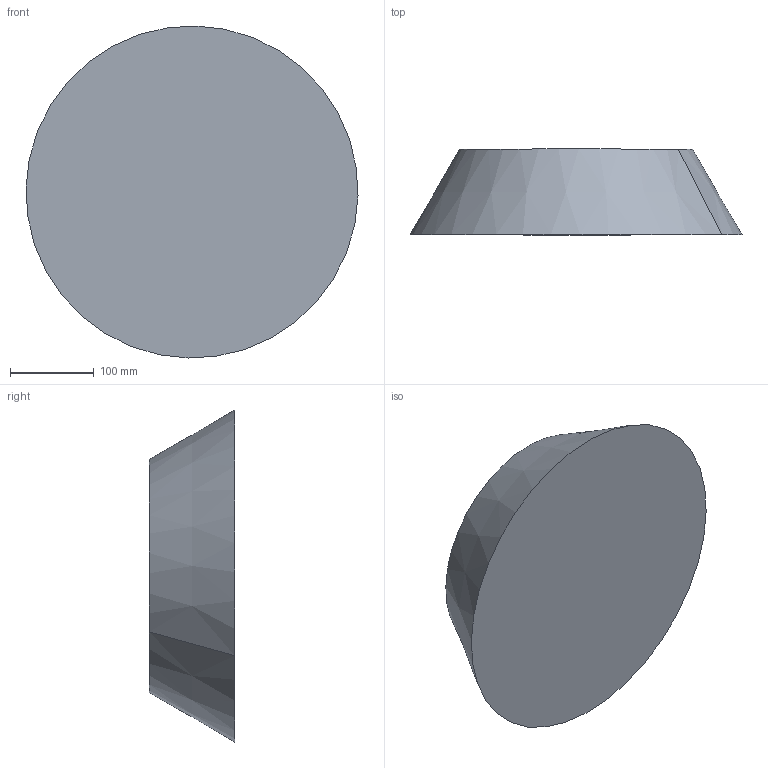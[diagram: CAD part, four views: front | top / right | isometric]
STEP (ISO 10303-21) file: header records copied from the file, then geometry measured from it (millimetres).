
FILE_DESCRIPTION(('CATIA V5 STEP Exchange'),'2;1');
FILE_NAME('C:\_Andres\UNIVERSIDAD\IQS\ASIGNATURAS\DAO\EXF\EXF-16172c\2inicio\Barrenechea_Bonifacio_Ej09_v2.stp','2017-03-05T22:13:09+00:00',('none'),('none'),'CATIA Version 5-6 Release 2014 SP1 HF18','CATIA V5 STEP AP203','none');
FILE_SCHEMA(('CONFIG_CONTROL_DESIGN'));
Length unit declared in the file: millimetre
Products named in the file (1): Barrenechea_Bonifacio_Ej09_v2
Bounding box: 395.89 x 102 x 395.89 mm (x, y, z)
Volume: 9188791.1 mm3; surface area: 310893.1 mm2
Topology: 1 solids, 2 shells, 8 faces, 12 edges, 8 vertices
Faces by surface type: plane 4, cone 2, cylinder 2
Entity records: 205 total; most frequent: CARTESIAN_POINT 27, DIRECTION 24, ORIENTED_EDGE 24, AXIS2_PLACEMENT_3D 15, EDGE_CURVE 12, ADVANCED_FACE 8, CIRCLE 8, EDGE_LOOP 8
